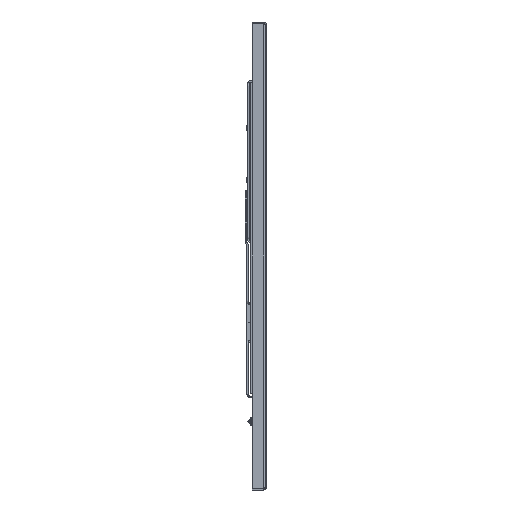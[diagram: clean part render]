
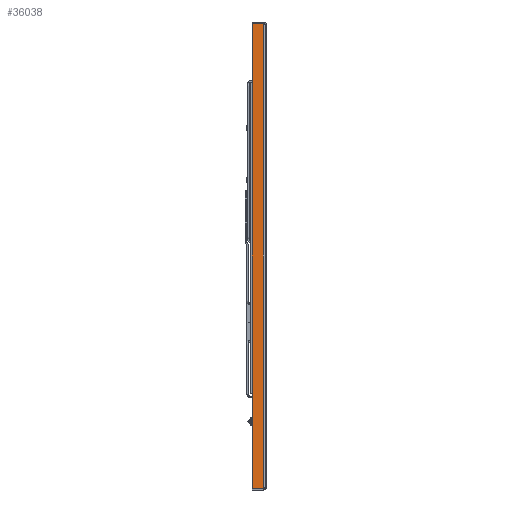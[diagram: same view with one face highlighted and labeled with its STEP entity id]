
A CAD part, left-side view. The second image highlights one B-rep face of the part: STEP entity #36038.
In plain terms, the highlighted planar face has unit normal (-1, 0, 0).
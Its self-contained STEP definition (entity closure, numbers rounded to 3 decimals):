
#564 = CARTESIAN_POINT ( 'NONE',  ( -595., 15.469, 277.968 ) ) ;
#1325 = VERTEX_POINT ( 'NONE', #33889 ) ;
#5260 = DIRECTION ( 'NONE',  ( 0., 0., -1. ) ) ;
#5386 = DIRECTION ( 'NONE',  ( 1., 0., 0. ) ) ;
#6137 = ORIENTED_EDGE ( 'NONE', *, *, #19249, .F. ) ;
#6434 = CARTESIAN_POINT ( 'NONE',  ( -595., 15.469, -277.968 ) ) ;
#9574 = EDGE_CURVE ( 'NONE', #1325, #9601, #37692, .T. ) ;
#9601 = VERTEX_POINT ( 'NONE', #13029 ) ;
#10149 = DIRECTION ( 'NONE',  ( 0., -1., 0. ) ) ;
#10533 = AXIS2_PLACEMENT_3D ( 'NONE', #20149, #5386, #31317 ) ;
#10735 = VECTOR ( 'NONE', #10149, 1000. ) ;
#10903 = DIRECTION ( 'NONE',  ( 0., 0., -1. ) ) ;
#13029 = CARTESIAN_POINT ( 'NONE',  ( -595., 15.469, -277.968 ) ) ;
#13878 = CARTESIAN_POINT ( 'NONE',  ( -595., 2.032, -277.968 ) ) ;
#19249 = EDGE_CURVE ( 'NONE', #1325, #33613, #37478, .T. ) ;
#20149 = CARTESIAN_POINT ( 'NONE',  ( -595., 15.469, -280. ) ) ;
#20151 = ORIENTED_EDGE ( 'NONE', *, *, #9574, .T. ) ;
#20721 = EDGE_LOOP ( 'NONE', ( #6137, #20151, #40607, #27312 ) ) ;
#24946 = VERTEX_POINT ( 'NONE', #13878 ) ;
#26705 = DIRECTION ( 'NONE',  ( 0., -1., 0. ) ) ;
#27312 = ORIENTED_EDGE ( 'NONE', *, *, #29793, .F. ) ;
#27614 = PLANE ( 'NONE',  #10533 ) ;
#27618 = VECTOR ( 'NONE', #26705, 1000. ) ;
#27700 = LINE ( 'NONE', #36863, #45155 ) ;
#27838 = VECTOR ( 'NONE', #5260, 1000. ) ;
#29793 = EDGE_CURVE ( 'NONE', #33613, #24946, #27700, .T. ) ;
#30827 = EDGE_CURVE ( 'NONE', #9601, #24946, #41537, .T. ) ;
#31317 = DIRECTION ( 'NONE',  ( 0., 0., -1. ) ) ;
#33613 = VERTEX_POINT ( 'NONE', #38033 ) ;
#33889 = CARTESIAN_POINT ( 'NONE',  ( -595., 15.469, 277.968 ) ) ;
#36038 = ADVANCED_FACE ( 'NONE', ( #36043 ), #27614, .F. ) ;
#36043 = FACE_OUTER_BOUND ( 'NONE', #20721, .T. ) ;
#36863 = CARTESIAN_POINT ( 'NONE',  ( -595., 2.032, -280. ) ) ;
#37478 = LINE ( 'NONE', #564, #27618 ) ;
#37692 = LINE ( 'NONE', #38682, #27838 ) ;
#38033 = CARTESIAN_POINT ( 'NONE',  ( -595., 2.032, 277.968 ) ) ;
#38682 = CARTESIAN_POINT ( 'NONE',  ( -595., 15.469, -280. ) ) ;
#40607 = ORIENTED_EDGE ( 'NONE', *, *, #30827, .T. ) ;
#41537 = LINE ( 'NONE', #6434, #10735 ) ;
#45155 = VECTOR ( 'NONE', #10903, 1000. ) ;
